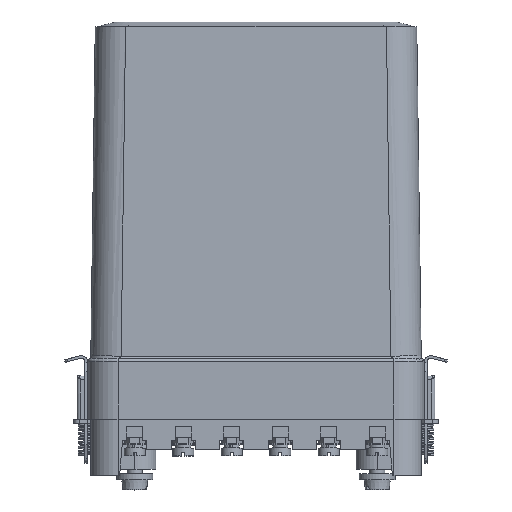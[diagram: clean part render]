
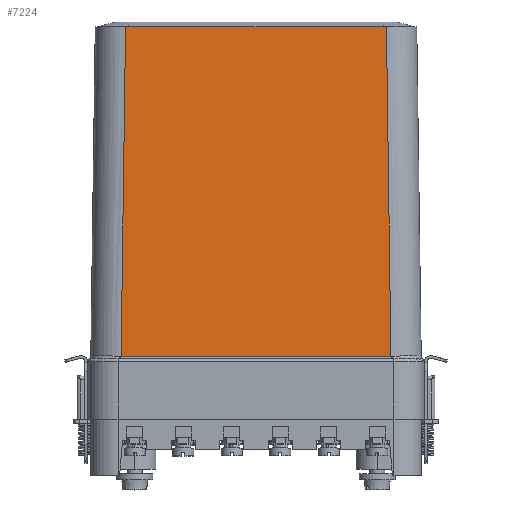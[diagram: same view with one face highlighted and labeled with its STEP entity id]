
A CAD part, top view. The second image highlights one B-rep face of the part: STEP entity #7224.
In plain terms, the highlighted planar face has unit normal (0, 0.013, 1).
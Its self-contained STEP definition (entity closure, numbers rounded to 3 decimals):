
#7224=ADVANCED_FACE('',(#27079),#27081,.T.);
#27079=FACE_BOUND('',#27080,.T.);
#27080=EDGE_LOOP('',(#35406,#35407,#35408,#35409));
#27081=PLANE('',#27082);
#27082=AXIS2_PLACEMENT_3D('',#27083,#27084,#27085);
#27083=CARTESIAN_POINT('',(43.,149.5,30.5));
#27084=DIRECTION('',(0.,0.014,1.));
#27085=DIRECTION('',(-1.,0.,0.));
#35406=ORIENTED_EDGE('',*,*,#39306,.T.);
#35407=ORIENTED_EDGE('',*,*,#39596,.F.);
#35408=ORIENTED_EDGE('',*,*,#39586,.T.);
#35409=ORIENTED_EDGE('',*,*,#39597,.T.);
#39306=EDGE_CURVE('',#43957,#43955,#43958,.T.);
#39586=EDGE_CURVE('',#44353,#44351,#44354,.T.);
#39596=EDGE_CURVE('',#44353,#43955,#44372,.T.);
#39597=EDGE_CURVE('',#44351,#43957,#44373,.T.);
#43955=VERTEX_POINT('',#55786);
#43957=VERTEX_POINT('',#55792);
#43958=LINE('',#55793,#55794);
#44351=VERTEX_POINT('',#57631);
#44353=VERTEX_POINT('',#57695);
#44354=LINE('',#57696,#57697);
#44372=LINE('',#57798,#57799);
#44373=LINE('',#57801,#57802);
#55786=CARTESIAN_POINT('',(44.49,39.224,31.99));
#55792=CARTESIAN_POINT('',(-44.49,39.224,31.99));
#55793=CARTESIAN_POINT('',(-44.49,39.224,31.99));
#55794=VECTOR('',#55795,1.);
#55795=DIRECTION('',(1.,0.,0.));
#57631=CARTESIAN_POINT('',(-43.02,148.,30.52));
#57695=CARTESIAN_POINT('',(43.02,148.,30.52));
#57696=CARTESIAN_POINT('',(43.02,148.,30.52));
#57697=VECTOR('',#57698,1.);
#57698=DIRECTION('',(-1.,0.,0.));
#57798=CARTESIAN_POINT('',(43.02,148.,30.52));
#57799=VECTOR('',#57800,1.);
#57800=DIRECTION('',(0.014,-1.,0.014));
#57801=CARTESIAN_POINT('',(-43.02,148.,30.52));
#57802=VECTOR('',#57803,1.);
#57803=DIRECTION('',(-0.014,-1.,0.014));
